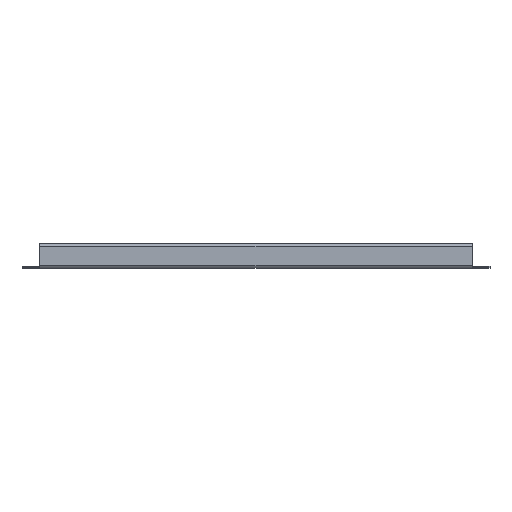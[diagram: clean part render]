
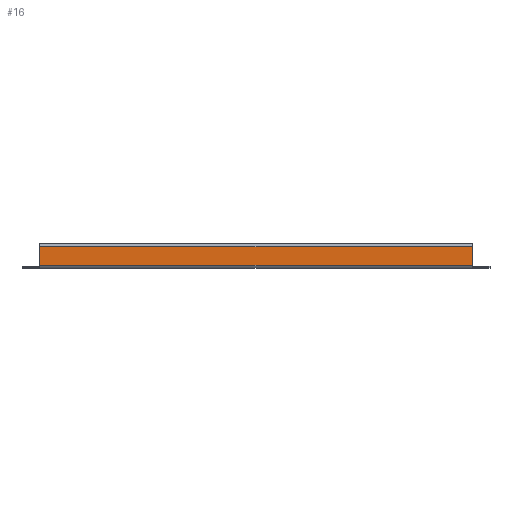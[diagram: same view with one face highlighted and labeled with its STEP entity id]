
A CAD part, top view. The second image highlights one B-rep face of the part: STEP entity #16.
In plain terms, the highlighted planar face has unit normal (0, 0, 1).
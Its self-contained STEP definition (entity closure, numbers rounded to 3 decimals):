
#16 = ADVANCED_FACE ( 'NONE', ( #796 ), #1209, .F. ) ;
#132 = VECTOR ( 'NONE', #757, 1000. ) ;
#182 = CARTESIAN_POINT ( 'NONE',  ( -195., 1.2, 100. ) ) ;
#195 = VECTOR ( 'NONE', #908, 1000. ) ;
#233 = CARTESIAN_POINT ( 'NONE',  ( 195., 20.2, 100. ) ) ;
#244 = ORIENTED_EDGE ( 'NONE', *, *, #1707, .T. ) ;
#330 = VECTOR ( 'NONE', #467, 1000. ) ;
#337 = EDGE_CURVE ( 'NONE', #1310, #1377, #1230, .T. ) ;
#401 = CARTESIAN_POINT ( 'NONE',  ( -195., 20.2, 100. ) ) ;
#467 = DIRECTION ( 'NONE',  ( -1., 0., 0. ) ) ;
#477 = EDGE_CURVE ( 'NONE', #1471, #1239, #1491, .T. ) ;
#494 = ORIENTED_EDGE ( 'NONE', *, *, #784, .F. ) ;
#532 = LINE ( 'NONE', #1713, #330 ) ;
#572 = DIRECTION ( 'NONE',  ( -1., 0., 0. ) ) ;
#602 = CARTESIAN_POINT ( 'NONE',  ( -195., 17.8, 100. ) ) ;
#696 = CARTESIAN_POINT ( 'NONE',  ( 195., 17.8, 100. ) ) ;
#757 = DIRECTION ( 'NONE',  ( 0., -1., 0. ) ) ;
#784 = EDGE_CURVE ( 'NONE', #1471, #1377, #532, .T. ) ;
#790 = LINE ( 'NONE', #696, #1699 ) ;
#796 = FACE_OUTER_BOUND ( 'NONE', #1728, .T. ) ;
#808 = DIRECTION ( 'NONE',  ( 0., 0., -1. ) ) ;
#907 = CARTESIAN_POINT ( 'NONE',  ( 195., 1.2, 100. ) ) ;
#908 = DIRECTION ( 'NONE',  ( 0., 1., 0. ) ) ;
#966 = ORIENTED_EDGE ( 'NONE', *, *, #337, .T. ) ;
#986 = CARTESIAN_POINT ( 'NONE',  ( 195., 17.8, 100. ) ) ;
#1209 = PLANE ( 'NONE',  #1502 ) ;
#1230 = LINE ( 'NONE', #1555, #132 ) ;
#1239 = VERTEX_POINT ( 'NONE', #986 ) ;
#1310 = VERTEX_POINT ( 'NONE', #602 ) ;
#1342 = DIRECTION ( 'NONE',  ( -1., 0., 0. ) ) ;
#1377 = VERTEX_POINT ( 'NONE', #182 ) ;
#1471 = VERTEX_POINT ( 'NONE', #907 ) ;
#1476 = ORIENTED_EDGE ( 'NONE', *, *, #477, .T. ) ;
#1491 = LINE ( 'NONE', #233, #195 ) ;
#1502 = AXIS2_PLACEMENT_3D ( 'NONE', #401, #808, #1342 ) ;
#1555 = CARTESIAN_POINT ( 'NONE',  ( -195., 20.2, 100. ) ) ;
#1699 = VECTOR ( 'NONE', #572, 1000. ) ;
#1707 = EDGE_CURVE ( 'NONE', #1239, #1310, #790, .T. ) ;
#1713 = CARTESIAN_POINT ( 'NONE',  ( -195., 1.2, 100. ) ) ;
#1728 = EDGE_LOOP ( 'NONE', ( #244, #966, #494, #1476 ) ) ;
